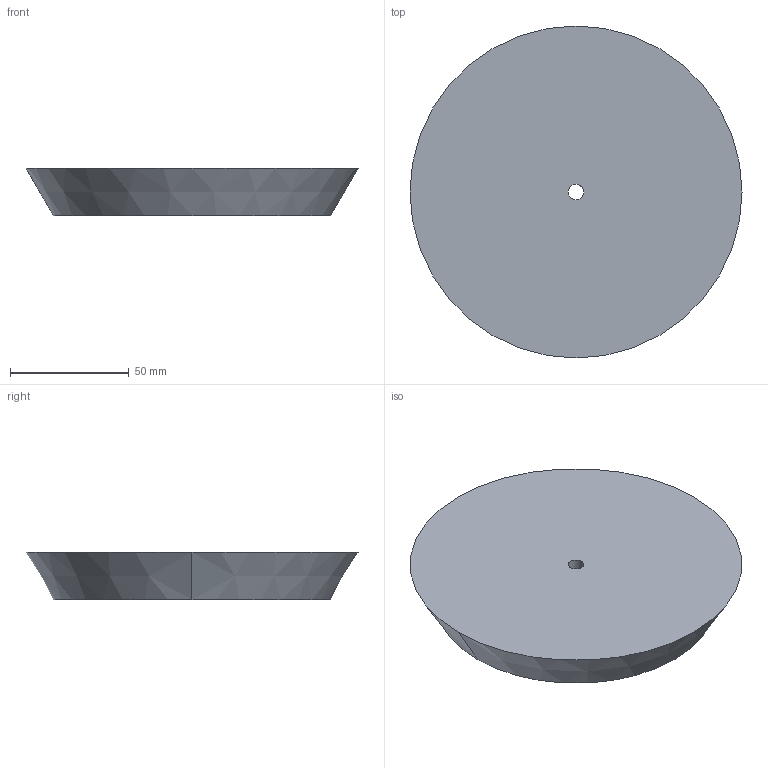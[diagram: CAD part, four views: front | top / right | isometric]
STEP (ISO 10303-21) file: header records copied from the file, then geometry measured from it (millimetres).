
FILE_DESCRIPTION(('CATIA V5 STEP Exchange'),'2;1');
FILE_NAME('C:\Users\andres.garcia\OneDrive - IQS\ASIGNATURAS\DAO\Controles\2223\c0\c1-GUARQUE_Mar-tapon.stp','2023-02-03T08:22:04+00:00',('none'),('none'),'CATIA Version 5-6 Release 2013 SP6','CATIA V5 STEP AP203','none');
FILE_SCHEMA(('CONFIG_CONTROL_DESIGN'));
Length unit declared in the file: millimetre
Products named in the file (1): c1-GUARQUE_Mar-tapon
Bounding box: 140 x 140 x 20 mm (x, y, z)
Volume: 259218.6 mm3; surface area: 35789.4 mm2
Topology: 1 solids, 1 shells, 6 faces, 12 edges, 8 vertices
Faces by surface type: cylinder 2, plane 2, cone 2
Entity records: 196 total; most frequent: CARTESIAN_POINT 26, ORIENTED_EDGE 24, DIRECTION 22, AXIS2_PLACEMENT_3D 14, EDGE_CURVE 12, CIRCLE 8, EDGE_LOOP 8, VERTEX_POINT 8
